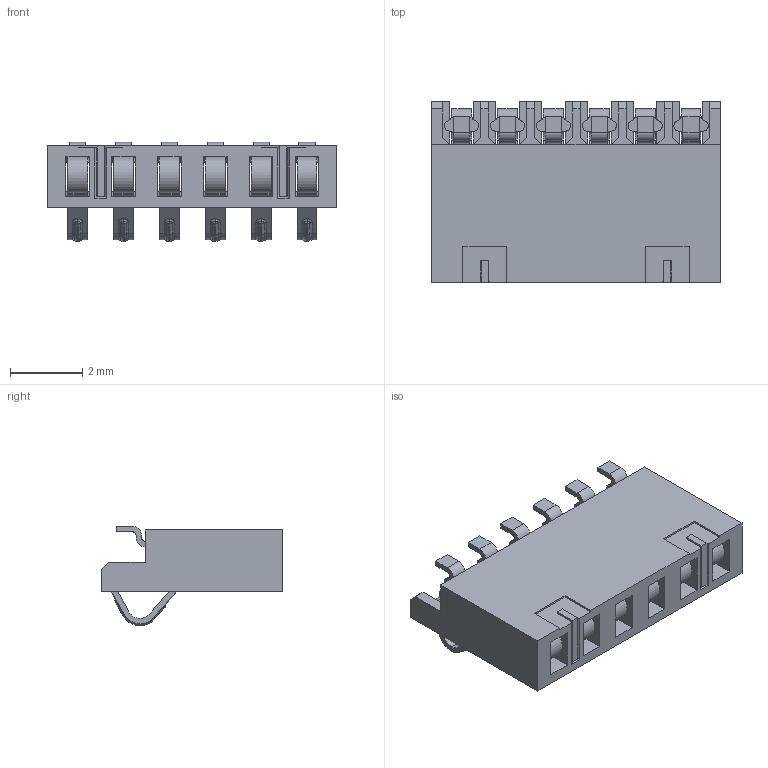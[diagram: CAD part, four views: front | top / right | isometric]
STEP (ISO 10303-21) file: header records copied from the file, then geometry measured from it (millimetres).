
FILE_DESCRIPTION (( 'STEP AP203' ), '1' );
FILE_NAME ('1.27PH BATTERY 1.7H 6P YZ20190809.STEP', '2019-08-15T06:38:10', ( '' ), ( 'Microsoft' ), 'SwSTEP 2.0', 'SolidWorks 2016', '' );
FILE_SCHEMA (( 'CONFIG_CONTROL_DESIGN' ));
Length unit declared in the file: millimetre
Products named in the file (1): 1.27PH BATTERY 1.7H 6P YZ20190809
Bounding box: 8 x 5 x 2.75 mm (x, y, z)
Volume: 41.9 mm3; surface area: 319.5 mm2
Topology: 9 solids, 9 shells, 855 faces, 2369 edges, 1526 vertices
Faces by surface type: plane 459, cylinder 330, bspline 66
Entity records: 28160 total; most frequent: CARTESIAN_POINT 6065, ORIENTED_EDGE 4738, DIRECTION 4591, EDGE_CURVE 2369, LINE 1583, VECTOR 1583, VERTEX_POINT 1526, AXIS2_PLACEMENT_3D 1504
